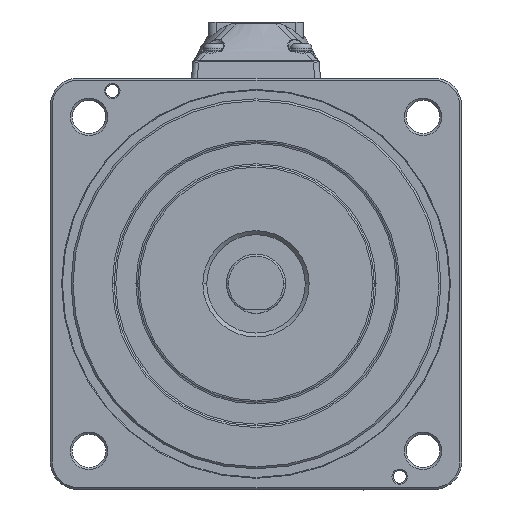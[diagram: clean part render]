
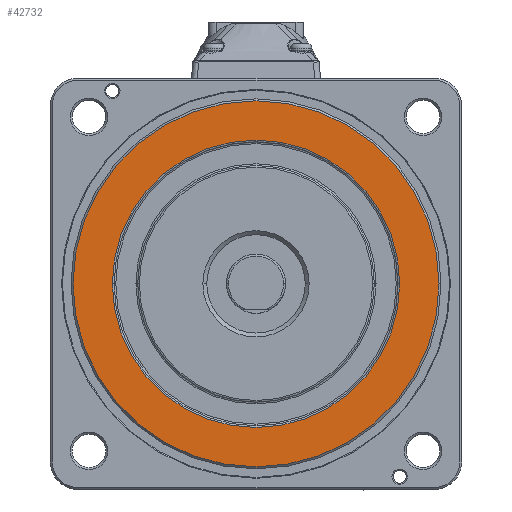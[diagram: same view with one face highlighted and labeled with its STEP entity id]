
A CAD part, top view. The second image highlights one B-rep face of the part: STEP entity #42732.
In plain terms, the highlighted planar face has unit normal (0, 0, 1) as drawn and (0, 0, -1) by its records, which use the part's own axes.
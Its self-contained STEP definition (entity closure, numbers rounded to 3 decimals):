
#2105 = CIRCLE ( 'NONE', #38916, 46.5 ) ;
#6044 = DIRECTION ( 'NONE',  ( 0., 0., 1. ) ) ;
#7219 = PLANE ( 'NONE',  #38905 ) ;
#7716 = EDGE_CURVE ( 'NONE', #58262, #8024, #56028, .T. ) ;
#8024 = VERTEX_POINT ( 'NONE', #58383 ) ;
#9160 = CARTESIAN_POINT ( 'NONE',  ( -46.5, 0., -12. ) ) ;
#9370 = CARTESIAN_POINT ( 'NONE',  ( 0., 0., -12. ) ) ;
#10836 = EDGE_CURVE ( 'NONE', #8024, #58262, #2105, .T. ) ;
#11685 = CARTESIAN_POINT ( 'NONE',  ( -36.5, 0., -12. ) ) ;
#12694 = CARTESIAN_POINT ( 'NONE',  ( 0., 0., -12. ) ) ;
#13145 = CARTESIAN_POINT ( 'NONE',  ( 0., 0., -12. ) ) ;
#14569 = CARTESIAN_POINT ( 'NONE',  ( 0., 0., -12. ) ) ;
#21527 = DIRECTION ( 'NONE',  ( 0., 0., 1. ) ) ;
#27164 = ORIENTED_EDGE ( 'NONE', *, *, #10836, .F. ) ;
#30178 = AXIS2_PLACEMENT_3D ( 'NONE', #9370, #31879, #50339 ) ;
#30548 = EDGE_LOOP ( 'NONE', ( #42496, #41125 ) ) ;
#31879 = DIRECTION ( 'NONE',  ( 0., 0., -1. ) ) ;
#34645 = ORIENTED_EDGE ( 'NONE', *, *, #7716, .F. ) ;
#36139 = EDGE_LOOP ( 'NONE', ( #27164, #34645 ) ) ;
#37076 = EDGE_CURVE ( 'NONE', #46894, #58991, #48534, .T. ) ;
#37078 = DIRECTION ( 'NONE',  ( 0., 0., -1. ) ) ;
#38905 = AXIS2_PLACEMENT_3D ( 'NONE', #12694, #21527, #44526 ) ;
#38916 = AXIS2_PLACEMENT_3D ( 'NONE', #53930, #39729, #44557 ) ;
#39098 = EDGE_CURVE ( 'NONE', #58991, #46894, #40580, .T. ) ;
#39729 = DIRECTION ( 'NONE',  ( 0., 0., 1. ) ) ;
#40580 = CIRCLE ( 'NONE', #43457, 36.5 ) ;
#41125 = ORIENTED_EDGE ( 'NONE', *, *, #39098, .F. ) ;
#42136 = DIRECTION ( 'NONE',  ( 1., 0., 0. ) ) ;
#42496 = ORIENTED_EDGE ( 'NONE', *, *, #37076, .F. ) ;
#42732 = ADVANCED_FACE ( 'NONE', ( #48778, #49380 ), #7219, .F. ) ;
#43457 = AXIS2_PLACEMENT_3D ( 'NONE', #13145, #37078, #50130 ) ;
#44526 = DIRECTION ( 'NONE',  ( 1., 0., 0. ) ) ;
#44557 = DIRECTION ( 'NONE',  ( 1., 0., 0. ) ) ;
#46894 = VERTEX_POINT ( 'NONE', #49059 ) ;
#48534 = CIRCLE ( 'NONE', #30178, 36.5 ) ;
#48778 = FACE_BOUND ( 'NONE', #30548, .T. ) ;
#49059 = CARTESIAN_POINT ( 'NONE',  ( 36.5, 0., -12. ) ) ;
#49380 = FACE_OUTER_BOUND ( 'NONE', #36139, .T. ) ;
#50130 = DIRECTION ( 'NONE',  ( 1., 0., 0. ) ) ;
#50339 = DIRECTION ( 'NONE',  ( 1., 0., 0. ) ) ;
#53133 = AXIS2_PLACEMENT_3D ( 'NONE', #14569, #6044, #42136 ) ;
#53930 = CARTESIAN_POINT ( 'NONE',  ( 0., 0., -12. ) ) ;
#56028 = CIRCLE ( 'NONE', #53133, 46.5 ) ;
#58262 = VERTEX_POINT ( 'NONE', #9160 ) ;
#58383 = CARTESIAN_POINT ( 'NONE',  ( 46.5, 0., -12. ) ) ;
#58991 = VERTEX_POINT ( 'NONE', #11685 ) ;
